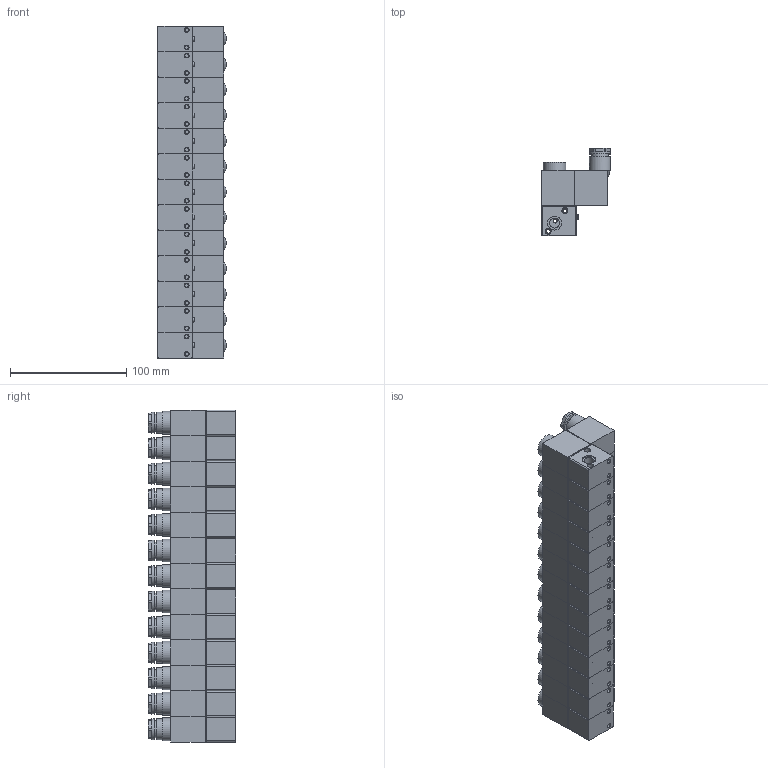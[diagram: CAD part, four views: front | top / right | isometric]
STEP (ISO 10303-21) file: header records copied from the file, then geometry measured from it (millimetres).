
FILE_DESCRIPTION(/* description */ ('STEP AP214'),/* implementation_level */ '2;1');
FILE_NAME(/* name */ '86-MS-3V-13-xxx.stp',/* time_stamp */ '2026-01-15T09:37:35+01:00',/* author */ ('Tschernatsch'),/* organization */ ('CADENAS'),/* preprocessor_version */ 'ST-DEVELOPER v20',/* originating_system */ 'Autodesk Inventor 2024',/* authorisation */ ' ');
FILE_SCHEMA (('AUTOMOTIVE_DESIGN { 1 0 10303 214 3 1 1 }'));
Length unit declared in the file: millimetre
Products named in the file (3): 3v1-06-LD-DC24V-13F; 3v1-06-LD-DC24V-13F3; 3v1-06-LD-DC24V-13F2
Assembly tree (26 placements, depth 2):
  3v1-06-LD-DC24V-13F
    3v1-06-LD-DC24V-13F3  x13
    3v1-06-LD-DC24V-13F2  x13
Bounding box: 59 x 75 x 286 mm (x, y, z)
Volume: 756574.7 mm3; surface area: 193189.7 mm2
Topology: 26 solids, 26 shells, 1170 faces, 2535 edges, 1677 vertices
Faces by surface type: plane 793, cylinder 325, cone 52
Full cylindrical faces by diameter (mm): 3.242 x26, 3.5 x39, 4 x13, 4.3 x13, 5.2 x52, 8.566 x39, 11 x13, 12 x26, 14.4 x13, 18 x26, 19.6 x13
Entity records: 2793 total; most frequent: DIRECTION 505, CARTESIAN_POINT 445, ORIENTED_EDGE 390, EDGE_CURVE 195, AXIS2_PLACEMENT_3D 192, VERTEX_POINT 129, LINE 121, VECTOR 121
